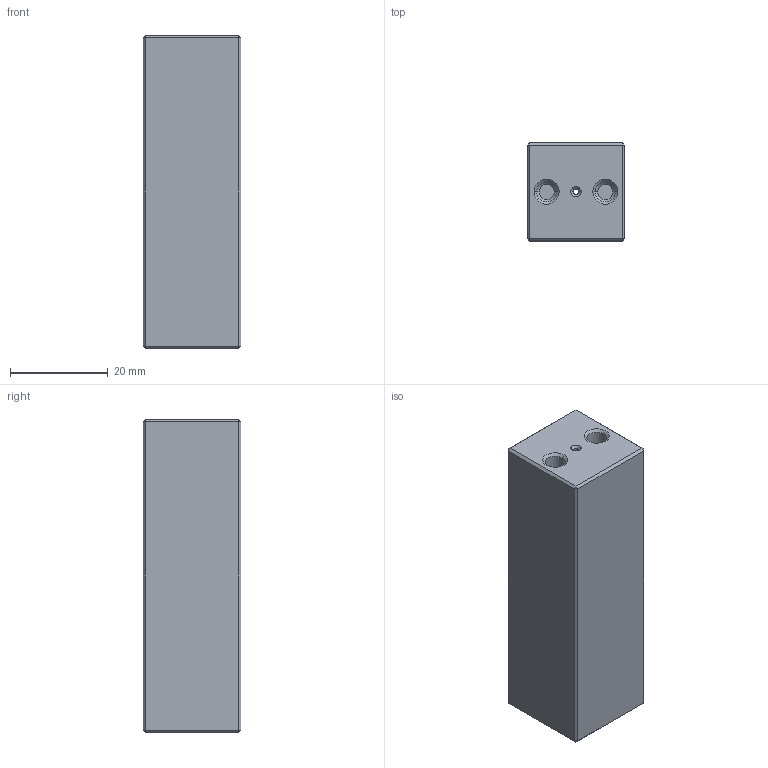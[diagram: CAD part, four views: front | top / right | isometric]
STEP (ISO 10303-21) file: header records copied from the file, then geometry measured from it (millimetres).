
FILE_DESCRIPTION (( 'STEP AP214' ), '1' );
FILE_NAME ('TRL-0038-A.STEP', '2021-06-25T18:44:52', ( '' ), ( '' ), 'SwSTEP 2.0', 'SolidWorks 2016', '' );
FILE_SCHEMA (( 'AUTOMOTIVE_DESIGN' ));
Length unit declared in the file: millimetre
Products named in the file (1): TRL-0038-A
Bounding box: 20 x 20 x 64 mm (x, y, z)
Volume: 23688.2 mm3; surface area: 7176.3 mm2
Topology: 1 solids, 1 shells, 50 faces, 98 edges, 52 vertices
Faces by surface type: plane 28, cone 14, cylinder 8
Entity records: 1268 total; most frequent: DIRECTION 228, CARTESIAN_POINT 201, ORIENTED_EDGE 196, EDGE_CURVE 98, AXIS2_PLACEMENT_3D 79, VECTOR 70, LINE 70, EDGE_LOOP 54
